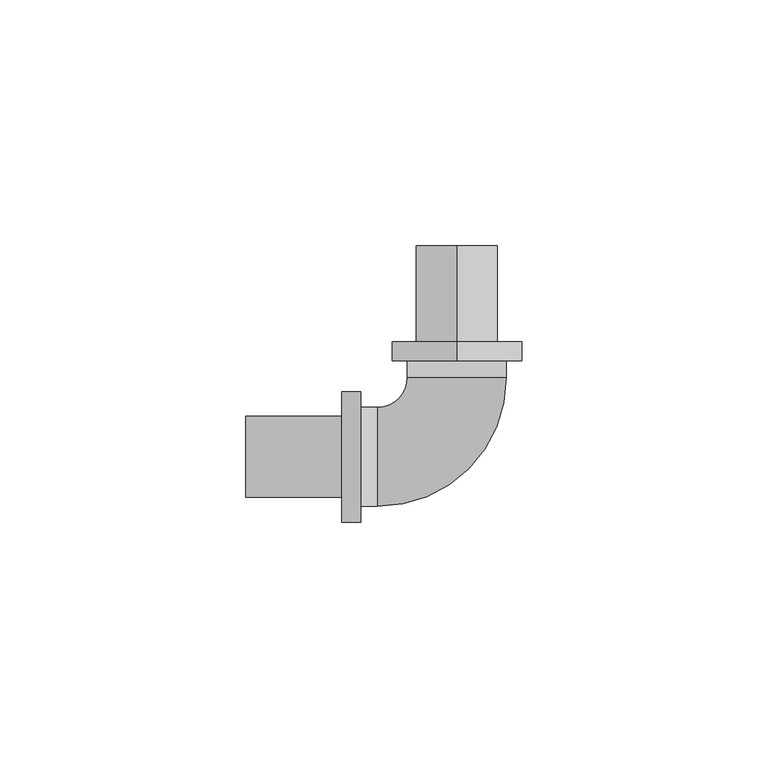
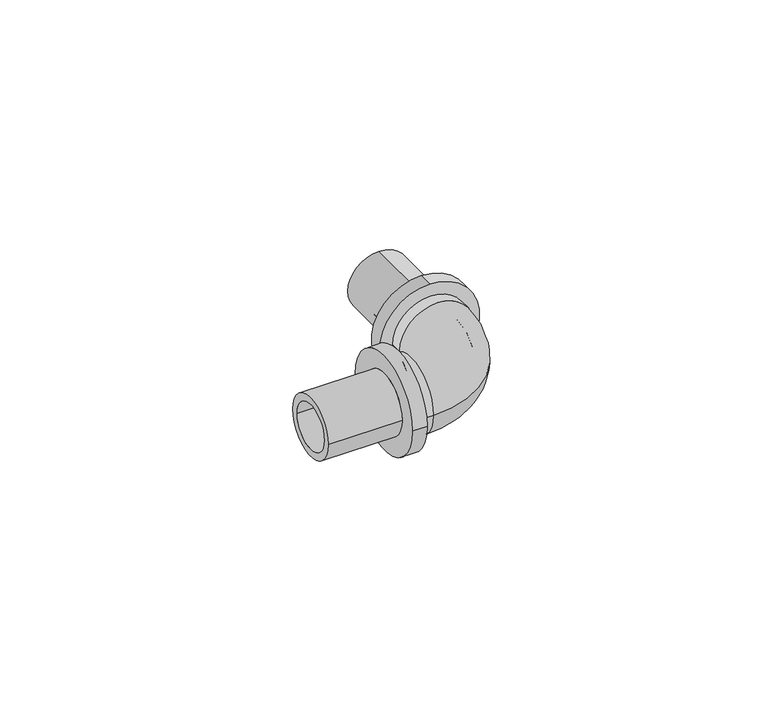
"""IFC4 building model written with IfcOpenShell, lengths in millimetres: pipe fitting geometry, RAUTITAN_Corner_RX+ : RTI RX+ C DN."""

import ifcopenshell
import ifcopenshell.guid

model = None  # the IFC model being written
_history = None  # IfcOwnerHistory: only IFC2X3 demands one
_inside = {}  # id of a spatial element -> (the spatial element, [elements in it])
_under = {}  # id of a project, library or spatial element -> (it, [spatial elements below it])
_declared = {}  # id of a project -> (the project, [libraries it declares])
_typed = {}  # id of a type object -> (the type object, [elements of that type])
_made_of = {}  # id of a material, layer set ... -> (it, [elements and type objects made of it])


def new_model(schema):
    """Start an empty IFC model of exactly this schema.

    Asked for "IFC4X3", IfcOpenShell would pick the latest addendum, in which some entities
    have other attributes; the version numbers below select the first issue.
    IFC2X3 requires an IfcOwnerHistory on every rooted entity: one is made here for all.
    """
    global model, _history
    if schema == "IFC4X3":
        model = ifcopenshell.file(schema_version=(4, 3, 0, 0))
    else:
        model = ifcopenshell.file(schema=schema)
    _inside.clear()
    _under.clear()
    _declared.clear()
    _typed.clear()
    _made_of.clear()
    _history = None
    if model.schema == "IFC2X3":
        org = make("IfcOrganization", Name="unknown")
        user = make(
            "IfcPersonAndOrganization",
            ThePerson=make("IfcPerson", FamilyName="unknown"),
            TheOrganization=org,
        )
        app = make(
            "IfcApplication",
            ApplicationDeveloper=org,
            Version="unknown",
            ApplicationFullName="unknown",
            ApplicationIdentifier="unknown",
        )
        _history = make(
            "IfcOwnerHistory",
            OwningUser=user,
            OwningApplication=app,
            ChangeAction="ADDED",
            CreationDate=0,
        )
    return model


def make(cls, **values):
    """One entity of the class cls with the attributes given. An attribute that is None is left unset."""
    return model.create_entity(
        cls, **{name: value for name, value in values.items() if value is not None}
    )


def rooted(cls, **values):
    """An entity with a GlobalId (a new one), such as an element, a storey or a relation."""
    return make(cls, GlobalId=ifcopenshell.guid.new(), OwnerHistory=_history, **values)


def si_unit(unit_type, name, prefix=None):
    """IfcSIUnit, for example si_unit("LENGTHUNIT", "METRE", prefix="MILLI")."""
    return make("IfcSIUnit", UnitType=unit_type, Prefix=prefix, Name=name)


def assignment(units):
    """IfcUnitAssignment: the units of a project."""
    return None if units is None else make("IfcUnitAssignment", Units=units)


def point(xyz):
    """IfcCartesianPoint."""
    return None if xyz is None else make("IfcCartesianPoint", Coordinates=xyz)


def direction(xyz):
    """IfcDirection."""
    return None if xyz is None else make("IfcDirection", DirectionRatios=xyz)


def frame(location, z_axis=None, x_axis=None):
    """IfcAxis2Placement3D, a coordinate frame: its origin and axes. An axis left out is left unset."""
    return make(
        "IfcAxis2Placement3D",
        Location=point(location),
        Axis=direction(z_axis),
        RefDirection=direction(x_axis),
    )


def origin():
    """The frame at (0, 0, 0) with its axes left unset."""
    return frame((0.0, 0.0, 0.0))


def place(relative_to, where):
    """IfcLocalPlacement: puts the frame where relative to a parent placement (None: the world)."""
    return make(
        "IfcLocalPlacement", PlacementRelTo=relative_to, RelativePlacement=where
    )


def context(
    kind, dimensions, precision=None, world=None, true_north=None, identifier=None
):
    """IfcGeometricRepresentationContext, for example the 3D "Model" context."""
    return make(
        "IfcGeometricRepresentationContext",
        ContextIdentifier=identifier,
        ContextType=kind,
        CoordinateSpaceDimension=dimensions,
        Precision=precision,
        WorldCoordinateSystem=world,
        TrueNorth=true_north,
    )


def project(units=None, contexts=None):
    """IfcProject with its units and contexts."""
    return rooted(
        "IfcProject",
        Name="project",
        RepresentationContexts=contexts,
        UnitsInContext=assignment(units),
    )


def spatial(cls, under=None, at=None, **own):
    """A site, building, storey or space (cls), placed at a placement, below another one or the project."""
    s = rooted(cls, ObjectPlacement=at, **own)
    if under is not None:
        _under.setdefault(under.id(), (under, []))[1].append(s)
    return s


def polyline(points):
    """IfcPolyline through the points."""
    return make("IfcPolyline", Points=[point(p) for p in points])


def circle_curve(where, radius):
    """IfcCircle in the frame where."""
    return make("IfcCircle", Position=where, Radius=radius)


def ellipse_curve(where, semi_axis1, semi_axis2):
    """IfcEllipse in the frame where."""
    return make(
        "IfcEllipse", Position=where, SemiAxis1=semi_axis1, SemiAxis2=semi_axis2
    )


def trimmed(basis, trim1, trim2, sense, master):
    """IfcTrimmedCurve: the piece of a basis curve between two trims."""
    return make(
        "IfcTrimmedCurve",
        BasisCurve=basis,
        Trim1=trim1,
        Trim2=trim2,
        SenseAgreement=sense,
        MasterRepresentation=master,
    )


def shape(context_of_items, identifier, shape_type, items):
    """IfcShapeRepresentation: the items that make up one representation, for example the "Body"."""
    return make(
        "IfcShapeRepresentation",
        ContextOfItems=context_of_items,
        RepresentationIdentifier=identifier,
        RepresentationType=shape_type,
        Items=items,
    )


def source(mapping_origin, context_of_items, identifier, shape_type, items):
    """IfcRepresentationMap: a shape defined once, which mapped items show again and again."""
    return make(
        "IfcRepresentationMap",
        MappingOrigin=mapping_origin,
        MappedRepresentation=shape(context_of_items, identifier, shape_type, items),
    )


def transform(
    local_origin,
    x_axis=None,
    y_axis=None,
    z_axis=None,
    scale=None,
    scale2=None,
    scale3=None,
    uniform=True,
):
    """IfcCartesianTransformationOperator3D, or its non-uniform kind. x_axis, y_axis, z_axis: its Axis1, 2, 3."""
    if uniform:
        return make(
            "IfcCartesianTransformationOperator3D",
            Axis1=direction(x_axis),
            Axis2=direction(y_axis),
            LocalOrigin=point(local_origin),
            Scale=scale,
            Axis3=direction(z_axis),
        )
    return make(
        "IfcCartesianTransformationOperator3DnonUniform",
        Axis1=direction(x_axis),
        Axis2=direction(y_axis),
        LocalOrigin=point(local_origin),
        Scale=scale,
        Axis3=direction(z_axis),
        Scale2=scale2,
        Scale3=scale3,
    )


def mapped(mapping_source, mapping_target):
    """IfcMappedItem: shows the shape of a source again, moved by a transform."""
    return make(
        "IfcMappedItem", MappingSource=mapping_source, MappingTarget=mapping_target
    )


def made_of(thing, what):
    """Note that an element or type object is made of a material, layer set ...; save() writes the relation."""
    if what is not None:
        _made_of.setdefault(what.id(), (what, []))[1].append(thing)
    return thing


def element(
    cls,
    number,
    at=None,
    inside=None,
    cuts=None,
    type_object=None,
    material=None,
    context=None,
    identifier="Body",
    shape_type=None,
    held_by="IfcProductDefinitionShape",
    body=None,
    shapes=None,
    **own,
):
    """One element of the class cls, such as IfcWall. Its Tag is "e" and its number.

    at: its placement. inside: the storey or other place that contains it. cuts: it is an
    opening in that element (IfcRelVoidsElement). A single representation is given by context,
    identifier, shape_type and body (its items); several are given by shapes. held_by: the class
    of the entity that holds the representations. save() writes the other relations.
    """
    e = rooted(cls, Tag="e%d" % number, ObjectPlacement=at, **own)
    if body is not None:
        shapes = [shape(context, identifier, shape_type, body)]
    if shapes is not None:
        e.Representation = make(held_by, Representations=shapes)
    if inside is not None:
        _inside.setdefault(inside.id(), (inside, []))[1].append(e)
    if cuts is not None:
        rooted(
            "IfcRelVoidsElement", RelatingBuildingElement=cuts, RelatedOpeningElement=e
        )
    if type_object is not None:
        _typed.setdefault(type_object.id(), (type_object, []))[1].append(e)
    return made_of(e, material)


def aggregate(whole, parts):
    """IfcRelAggregates: a whole, such as a stair, and the parts it consists of."""
    return rooted("IfcRelAggregates", RelatingObject=whole, RelatedObjects=parts)


def save(model, path):
    """Write the relations noted so far, then the file.

    IfcRelAggregates (storeys below a building ...), IfcRelContainedInSpatialStructure (elements
    in a storey), IfcRelDefinesByType, IfcRelAssociatesMaterial and IfcRelDeclares: one each for
    every whole, place, type object, material and project.
    """
    for whole, parts in _under.values():
        aggregate(whole, parts)
    for where, things in _inside.values():
        rooted(
            "IfcRelContainedInSpatialStructure",
            RelatedElements=things,
            RelatingStructure=where,
        )
    for kind, things in _typed.values():
        rooted("IfcRelDefinesByType", RelatedObjects=things, RelatingType=kind)
    for what, things in _made_of.values():
        rooted("IfcRelAssociatesMaterial", RelatedObjects=things, RelatingMaterial=what)
    for by, libraries in _declared.values():
        rooted("IfcRelDeclares", RelatingContext=by, RelatedDefinitions=libraries)
    model.write(path)


def plane_surface(at):
    """IfcPlane: the flat surface through the origin of the frame at, square to its z axis."""
    return make("IfcPlane", Position=at)


def cylinder_surface(at, radius):
    """IfcCylindricalSurface: all points at the distance radius from the z axis of the frame at."""
    return make("IfcCylindricalSurface", Position=at, Radius=radius)


def revolved_surface(curve, axis_point, axis_direction):
    """IfcSurfaceOfRevolution: the curve turned about the line through axis_point along axis_direction."""
    return make(
        "IfcSurfaceOfRevolution",
        SweptCurve=make("IfcArbitraryOpenProfileDef", ProfileType="CURVE", Curve=curve),
        AxisPosition=make("IfcAxis1Placement", Location=point(axis_point), Axis=direction(axis_direction)),
    )


def advanced_brep(points, edges, surfaces, faces):
    """IfcAdvancedBrep: a solid bounded by faces that lie on surfaces and meet in shared edges.

    An edge is (start, end): straight between two places in points (the first is 0);
    or (start, end, curve); or (start, end, curve, False) where it runs against its curve.
    A face is (place in surfaces, loops), or (place, loops, False) where it looks against
    its surface's normal. A loop lists edges by number (the first is 1), with a minus sign
    where the edge is run from its end to its start. The first loop is the outer one.
    """
    corners = [point(p) for p in points]
    vertices = [make("IfcVertexPoint", VertexGeometry=c) for c in corners]
    made = []
    for start, end, *more in edges:
        made.append(
            make(
                "IfcEdgeCurve",
                EdgeStart=vertices[start],
                EdgeEnd=vertices[end],
                EdgeGeometry=more[0] if more else make("IfcPolyline", Points=[corners[start], corners[end]]),
                SameSense=more[1] if len(more) > 1 else True,
            )
        )
    hull = []
    for where, loops, *sense in faces:
        bounds = []
        for j, loop in enumerate(loops):
            ring = [make("IfcOrientedEdge", EdgeElement=made[abs(k) - 1], Orientation=k > 0) for k in loop]
            bounds.append(
                make(
                    "IfcFaceOuterBound" if j == 0 else "IfcFaceBound",
                    Bound=make("IfcEdgeLoop", EdgeList=ring),
                    Orientation=True,
                )
            )
        hull.append(make("IfcAdvancedFace", Bounds=bounds, FaceSurface=surfaces[where], SameSense=sense[0] if sense else True))
    return make("IfcAdvancedBrep", Outer=make("IfcClosedShell", CfsFaces=hull))


def pipe_fitting_19b78b0a(model_context):
    return source(origin(), model_context, "Body", "AdvancedBrep", [
        advanced_brep(
        [(0.0, 23.4, 13.25), (0.0, 23.4, -13.25), (0.0, 19.6, -13.25), (0.0, 19.6, 13.25), (0.0, 42.9, 8.25), (0.0, 42.9, -8.25), (0.0, 23.4, -8.25), (0.0, 23.4, 8.25), (0.0, 19.6, 6.25), (0.0, 19.6, -6.25), (0.0, 42.9, -6.25), (0.0, 42.9, 6.25)],
        [
            (0, 1, circle_curve(frame((0.0, 23.4, 0.0), z_axis=(0.0, -1.0, 0.0), x_axis=(0.0, 0.0, -1.0)), 13.25)),
            (1, 2),
            (2, 3, circle_curve(frame((0.0, 19.6, 0.0), z_axis=(0.0, 1.0, 0.0), x_axis=(0.0, 0.0, -1.0)), 13.25)),
            (3, 0),
            (4, 5, circle_curve(frame((0.0, 42.9, 0.0), z_axis=(0.0, -1.0, 0.0), x_axis=(0.0, 0.0, -1.0)), 8.25)),
            (5, 6),
            (6, 7, circle_curve(frame((0.0, 23.4, 0.0), z_axis=(0.0, 1.0, 0.0), x_axis=(0.0, 0.0, -1.0)), 8.25)),
            (7, 4),
            (8, 9, circle_curve(frame((0.0, 19.6, 0.0), z_axis=(0.0, -1.0, 0.0), x_axis=(0.0, 0.0, -1.0)), 6.25)),
            (9, 10),
            (10, 11, circle_curve(frame((0.0, 42.9, 0.0), z_axis=(0.0, 1.0, 0.0), x_axis=(0.0, 0.0, -1.0)), 6.25)),
            (11, 8),
            (1, 0, circle_curve(frame((0.0, 23.4, 0.0), z_axis=(0.0, -1.0, 0.0), x_axis=(0.0, 0.0, 1.0)), 13.25)),
            (3, 2, circle_curve(frame((0.0, 19.6, 0.0), z_axis=(0.0, 1.0, 0.0), x_axis=(0.0, 0.0, 1.0)), 13.25)),
            (6, 7, circle_curve(frame((0.0, 23.4, 0.0), z_axis=(0.0, -1.0, 0.0), x_axis=(0.0, 0.0, 1.0)), 8.25)),
            (5, 4, circle_curve(frame((0.0, 42.9, 0.0), z_axis=(0.0, -1.0, 0.0), x_axis=(0.0, 0.0, 1.0)), 8.25)),
            (10, 11, circle_curve(frame((0.0, 42.9, 0.0), z_axis=(0.0, -1.0, 0.0), x_axis=(0.0, 0.0, 1.0)), 6.25)),
            (9, 8, circle_curve(frame((0.0, 19.6, 0.0), z_axis=(0.0, -1.0, 0.0), x_axis=(0.0, 0.0, 1.0)), 6.25)),
        ],
        [
            cylinder_surface(frame((0.0, 19.6, 0.0), z_axis=(0.0, 1.0, 0.0), x_axis=(0.0, 0.0, -1.0)), 13.25),
            cylinder_surface(frame((0.0, 19.6, 0.0), z_axis=(0.0, 1.0, 0.0), x_axis=(0.0, 0.0, -1.0)), 8.25),
            revolved_surface(polyline([(0.0, 42.9, -6.25), (0.0, 19.6, -6.25)]), (0.0, 19.6, 0.0), (0.0, 1.0, 0.0)),
            cylinder_surface(frame((0.0, 19.6, 0.0), z_axis=(0.0, 1.0, 0.0), x_axis=(0.0, 0.0, 1.0)), 13.25),
            plane_surface(frame((0.0, 23.4, 0.0), z_axis=(0.0, 1.0, 0.0), x_axis=(0.0, 0.0, 1.0))),
            cylinder_surface(frame((0.0, 19.6, 0.0), z_axis=(0.0, 1.0, 0.0), x_axis=(0.0, 0.0, 1.0)), 8.25),
            plane_surface(frame((0.0, 42.9, 0.0), z_axis=(0.0, 1.0, 0.0), x_axis=(0.0, 0.0, 1.0))),
            revolved_surface(polyline([(0.0, 42.9, 6.25), (0.0, 19.6, 6.25)]), (0.0, 19.6, 0.0), (0.0, 1.0, 0.0)),
            plane_surface(frame((0.0, 19.6, 0.0), z_axis=(0.0, -1.0, 0.0), x_axis=(0.0, 0.0, 1.0))),
        ],
        [
            (0, [[1, 2, 3, 4]]),
            (1, [[5, 6, 7, 8]]),
            (2, [[9, 10, 11, 12]]),
            (3, [[13, -4, 14, -2]]),
            (4, [[-13, -1], [15, -7]]),
            (5, [[16, -8, -15, -6]]),
            (6, [[-16, -5], [17, -11]]),
            (7, [[18, -12, -17, -10]]),
            (8, [[-14, -3], [-18, -9]]),
        ],
    ),
        advanced_brep(
        [(-23.4, -13.25, 0.0), (-23.4, 13.25, 0.0), (-19.6, 13.25, 0.0), (-19.6, -13.25, 0.0), (-42.9, -8.25, 0.0), (-42.9, 8.25, 0.0), (-23.4, 8.25, 0.0), (-23.4, -8.25, 0.0), (-19.6, -6.25, 0.0), (-19.6, 6.25, 0.0), (-42.9, 6.25, 0.0), (-42.9, -6.25, 0.0)],
        [
            (0, 1, circle_curve(frame((-23.4, 0.0, 0.0), z_axis=(1.0, 0.0, 0.0), x_axis=(0.0, 1.0, 0.0)), 13.25)),
            (1, 2),
            (2, 3, circle_curve(frame((-19.6, 0.0, 0.0), z_axis=(-1.0, 0.0, 0.0), x_axis=(0.0, 1.0, 0.0)), 13.25)),
            (3, 0),
            (4, 5, circle_curve(frame((-42.9, 0.0, 0.0), z_axis=(1.0, 0.0, 0.0), x_axis=(0.0, 1.0, 0.0)), 8.25)),
            (5, 6),
            (6, 7, circle_curve(frame((-23.4, 0.0, 0.0), z_axis=(-1.0, 0.0, 0.0), x_axis=(0.0, 1.0, 0.0)), 8.25)),
            (7, 4),
            (8, 9, circle_curve(frame((-19.6, 0.0, 0.0), z_axis=(1.0, 0.0, 0.0), x_axis=(0.0, 1.0, 0.0)), 6.25)),
            (9, 10),
            (10, 11, circle_curve(frame((-42.9, 0.0, 0.0), z_axis=(-1.0, 0.0, 0.0), x_axis=(0.0, 1.0, 0.0)), 6.25)),
            (11, 8),
            (1, 0, circle_curve(frame((-23.4, 0.0, 0.0), z_axis=(1.0, 0.0, 0.0), x_axis=(0.0, -1.0, 0.0)), 13.25)),
            (3, 2, circle_curve(frame((-19.6, 0.0, 0.0), z_axis=(-1.0, 0.0, 0.0), x_axis=(0.0, -1.0, 0.0)), 13.25)),
            (6, 7, circle_curve(frame((-23.4, 0.0, 0.0), z_axis=(1.0, 0.0, 0.0), x_axis=(0.0, -1.0, 0.0)), 8.25)),
            (5, 4, circle_curve(frame((-42.9, 0.0, 0.0), z_axis=(1.0, 0.0, 0.0), x_axis=(0.0, -1.0, 0.0)), 8.25)),
            (10, 11, circle_curve(frame((-42.9, 0.0, 0.0), z_axis=(1.0, 0.0, 0.0), x_axis=(0.0, -1.0, 0.0)), 6.25)),
            (9, 8, circle_curve(frame((-19.6, 0.0, 0.0), z_axis=(1.0, 0.0, 0.0), x_axis=(0.0, -1.0, 0.0)), 6.25)),
        ],
        [
            cylinder_surface(frame((-19.6, 0.0, 0.0), z_axis=(-1.0, 0.0, 0.0), x_axis=(0.0, 1.0, 0.0)), 13.25),
            cylinder_surface(frame((-19.6, 0.0, 0.0), z_axis=(-1.0, 0.0, 0.0), x_axis=(0.0, 1.0, 0.0)), 8.25),
            revolved_surface(polyline([(-42.9, 6.25, 0.0), (-19.6, 6.25, 0.0)]), (-19.6, 0.0, 0.0), (-1.0, 0.0, 0.0)),
            cylinder_surface(frame((-19.6, 0.0, 0.0), z_axis=(-1.0, 0.0, 0.0), x_axis=(0.0, -1.0, 0.0)), 13.25),
            plane_surface(frame((-23.4, 0.0, 0.0), z_axis=(-1.0, 0.0, 0.0), x_axis=(0.0, -1.0, 0.0))),
            cylinder_surface(frame((-19.6, 0.0, 0.0), z_axis=(-1.0, 0.0, 0.0), x_axis=(0.0, -1.0, 0.0)), 8.25),
            plane_surface(frame((-42.9, 0.0, 0.0), z_axis=(-1.0, 0.0, 0.0), x_axis=(0.0, -1.0, 0.0))),
            revolved_surface(polyline([(-42.9, -6.25, 0.0), (-19.6, -6.25, 0.0)]), (-19.6, 0.0, 0.0), (-1.0, 0.0, 0.0)),
            plane_surface(frame((-19.6, 0.0, 0.0), z_axis=(1.0, 0.0, 0.0), x_axis=(0.0, -1.0, 0.0))),
        ],
        [
            (0, [[1, 2, 3, 4]]),
            (1, [[5, 6, 7, 8]]),
            (2, [[9, 10, 11, 12]]),
            (3, [[13, -4, 14, -2]]),
            (4, [[-13, -1], [15, -7]]),
            (5, [[16, -8, -15, -6]]),
            (6, [[-16, -5], [17, -11]]),
            (7, [[18, -12, -17, -10]]),
            (8, [[-14, -3], [-18, -9]]),
        ],
    ),
        advanced_brep(
        [(-19.6, 10.05, 0.0), (-19.6, -10.05, 0.0), (-19.6, 6.25, 0.0), (-19.6, -6.25, 0.0), (-16.15, -6.25, 0.0), (-16.15, 6.25, 0.0), (-16.15, -10.05, 0.0), (-16.15, 0.0, 10.05), (-16.15, 10.05, 0.0), (-16.15, 0.0, -10.05), (10.05, 19.6, 0.0), (-10.05, 19.6, 0.0), (6.25, 19.6, 0.0), (-6.25, 19.6, 0.0), (-6.25, 16.15, 0.0), (6.25, 16.15, 0.0), (-10.05, 16.15, 0.0), (0.0, 16.15, 10.05), (10.05, 16.15, 0.0), (0.0, 16.15, -10.05)],
        [
            (0, 1, circle_curve(frame((-19.6, 0.0, 0.0), z_axis=(-1.0, 0.0, 0.0), x_axis=(0.0, -1.0, 0.0)), 10.05)),
            (1, 0, circle_curve(frame((-19.6, 0.0, 0.0), z_axis=(-1.0, 0.0, 0.0), x_axis=(0.0, -1.0, 0.0)), 10.05)),
            (2, 3, circle_curve(frame((-19.6, 0.0, 0.0), z_axis=(1.0, 0.0, 0.0), x_axis=(0.0, -1.0, 0.0)), 6.25)),
            (3, 2, circle_curve(frame((-19.6, 0.0, 0.0), z_axis=(1.0, 0.0, 0.0), x_axis=(0.0, -1.0, 0.0)), 6.25)),
            (3, 4),
            (4, 5, circle_curve(frame((-16.15, 0.0, 0.0), z_axis=(1.0, 0.0, 0.0), x_axis=(0.0, -1.0, 0.0)), 6.25)),
            (5, 2),
            (5, 4, circle_curve(frame((-16.15, 0.0, 0.0), z_axis=(1.0, 0.0, 0.0), x_axis=(0.0, -1.0, 0.0)), 6.25)),
            (1, 6),
            (6, 7, circle_curve(frame((-16.15, 0.0, 0.0), z_axis=(-1.0, 0.0, 0.0), x_axis=(0.0, -1.0, 0.0)), 10.05)),
            (7, 8, circle_curve(frame((-16.15, 0.0, 0.0), z_axis=(-1.0, 0.0, 0.0), x_axis=(0.0, -1.0, 0.0)), 10.05)),
            (8, 0),
            (8, 9, circle_curve(frame((-16.15, 0.0, 0.0), z_axis=(-1.0, 0.0, 0.0), x_axis=(0.0, -1.0, 0.0)), 10.05)),
            (9, 6, circle_curve(frame((-16.15, 0.0, 0.0), z_axis=(-1.0, 0.0, 0.0), x_axis=(0.0, -1.0, 0.0)), 10.05)),
            (10, 11, circle_curve(frame((0.0, 19.6, 0.0), z_axis=(0.0, 1.0, 0.0), x_axis=(-1.0, 0.0, 0.0)), 10.05)),
            (11, 10, circle_curve(frame((0.0, 19.6, 0.0), z_axis=(0.0, 1.0, 0.0), x_axis=(-1.0, 0.0, 0.0)), 10.05)),
            (12, 13, circle_curve(frame((0.0, 19.6, 0.0), z_axis=(0.0, -1.0, 0.0), x_axis=(-1.0, 0.0, 0.0)), 6.25)),
            (13, 12, circle_curve(frame((0.0, 19.6, 0.0), z_axis=(0.0, -1.0, 0.0), x_axis=(-1.0, 0.0, 0.0)), 6.25)),
            (13, 14),
            (14, 15, circle_curve(frame((0.0, 16.15, 0.0), z_axis=(0.0, -1.0, 0.0), x_axis=(-1.0, 0.0, 0.0)), 6.25)),
            (15, 12),
            (15, 14, circle_curve(frame((0.0, 16.15, 0.0), z_axis=(0.0, -1.0, 0.0), x_axis=(-1.0, 0.0, 0.0)), 6.25)),
            (11, 16),
            (16, 17, circle_curve(frame((0.0, 16.15, 0.0), z_axis=(0.0, 1.0, 0.0), x_axis=(-1.0, 0.0, 0.0)), 10.05)),
            (17, 18, circle_curve(frame((0.0, 16.15, 0.0), z_axis=(0.0, 1.0, 0.0), x_axis=(-1.0, 0.0, 0.0)), 10.05)),
            (18, 10),
            (18, 19, circle_curve(frame((0.0, 16.15, 0.0), z_axis=(0.0, 1.0, 0.0), x_axis=(-1.0, 0.0, 0.0)), 10.05)),
            (19, 16, circle_curve(frame((0.0, 16.15, 0.0), z_axis=(0.0, 1.0, 0.0), x_axis=(-1.0, 0.0, 0.0)), 10.05)),
            (14, 5, circle_curve(frame((-16.15, 16.15, 0.0), z_axis=(0.0, 0.0, -1.0), x_axis=(0.0, -1.0, 0.0)), 9.9)),
            (4, 15, circle_curve(frame((-16.15, 16.15, 0.0), z_axis=(0.0, 0.0, 1.0), x_axis=(0.0, -1.0, 0.0)), 22.4)),
            (16, 8, circle_curve(frame((-16.15, 16.15, 0.0), z_axis=(0.0, 0.0, -1.0), x_axis=(0.0, -1.0, 0.0)), 6.1)),
            (6, 18, circle_curve(frame((-16.15, 16.15, 0.0), z_axis=(0.0, 0.0, 1.0), x_axis=(0.0, -1.0, 0.0)), 26.2)),
        ],
        [
            plane_surface(frame((-19.6, 0.0, 0.0), z_axis=(-1.0, 0.0, 0.0), x_axis=(0.0, 0.0, 1.0))),
            revolved_surface(polyline([(-19.6, -6.25, 0.0), (-16.15, -6.25, 0.0)]), (-16.15, 0.0, 0.0), (-1.0, 0.0, 0.0)),
            cylinder_surface(frame((-16.15, 0.0, 0.0), z_axis=(1.0, 0.0, 0.0), x_axis=(0.0, -1.0, 0.0)), 10.05),
            plane_surface(frame((0.0, 19.6, 0.0), z_axis=(0.0, 1.0, 0.0), x_axis=(0.0, 0.0, 1.0))),
            revolved_surface(polyline([(-6.25, 19.6, 0.0), (-6.25, 16.15, 0.0)]), (0.0, 16.15, 0.0), (0.0, 1.0, 0.0)),
            cylinder_surface(frame((0.0, 16.15, 0.0), z_axis=(0.0, -1.0, 0.0), x_axis=(-1.0, 0.0, 0.0)), 10.05),
            revolved_surface(trimmed(ellipse_curve(frame((-16.15, 0.0, 0.0), z_axis=(1.0, 0.0, 0.0), x_axis=(0.0, 1.0, 0.0)), 6.25, 6.25), [point((-16.15, -6.25, 0.0))], [point((-16.15, 6.25, 0.0))], True, "CARTESIAN"), (-16.15, 16.15, 0.0), (0.0, 0.0, 1.0)),
            revolved_surface(trimmed(ellipse_curve(frame((-16.15, 0.0, 0.0), z_axis=(1.0, 0.0, 0.0), x_axis=(0.0, 1.0, 0.0)), 6.25, 6.25), [point((-16.15, 6.25, 0.0))], [point((-16.15, -6.25, 0.0))], True, "CARTESIAN"), (-16.15, 16.15, 0.0), (0.0, 0.0, 1.0)),
            revolved_surface(trimmed(ellipse_curve(frame((-16.15, 0.0, 0.0), z_axis=(-1.0, 0.0, 0.0), x_axis=(0.0, 1.0, 0.0)), 10.05, 10.05), [point((-16.15, -10.05, 0.0))], [point((-16.15, 10.05, 0.0))], True, "CARTESIAN"), (-16.15, 16.15, 0.0), (0.0, 0.0, 1.0)),
            revolved_surface(trimmed(ellipse_curve(frame((-16.15, 0.0, 0.0), z_axis=(-1.0, 0.0, 0.0), x_axis=(0.0, 1.0, 0.0)), 10.05, 10.05), [point((-16.15, 10.05, 0.0))], [point((-16.15, -10.05, 0.0))], True, "CARTESIAN"), (-16.15, 16.15, 0.0), (0.0, 0.0, 1.0)),
        ],
        [
            (0, [[1, 2], [3, 4]]),
            (1, [[-4, 5, 6, 7]]),
            (1, [[-3, -7, 8, -5]]),
            (2, [[-2, 9, 10, 11, 12]]),
            (2, [[-1, -12, 13, 14, -9]]),
            (3, [[15, 16], [17, 18]]),
            (4, [[-18, 19, 20, 21]]),
            (4, [[-17, -21, 22, -19]]),
            (5, [[-16, 23, 24, 25, 26]]),
            (5, [[-15, -26, 27, 28, -23]]),
            (6, [[29, -6, 30, -20]]),
            (7, [[-29, -22, -30, -8]]),
            (8, [[31, -11, -10, 32, -25, -24]]),
            (9, [[-31, -28, -27, -32, -14, -13]]),
        ],
    ),
    ])


if __name__ == "__main__":
    model = new_model("IFC4")
    model_context = context("Model", 3, world=origin())
    ifc_project = project(units=[si_unit("LENGTHUNIT", "METRE", prefix="MILLI")], contexts=[model_context])
    site = spatial("IfcSite", under=ifc_project)
    building = spatial("IfcBuilding", under=site)
    placement = place(None, origin())
    pipe_fitting_shape = pipe_fitting_19b78b0a(model_context)
    element("IfcPipeFitting", 1, ObjectType="RAUTITAN_Corner_RX+ : RTI RX+ C DN", at=placement, inside=building, context=model_context, shape_type="MappedRepresentation", body=[
        mapped(pipe_fitting_shape, transform((0.0, 0.0, 0.0), x_axis=(1.0, 0.0, 0.0), y_axis=(0.0, 1.0, 0.0), z_axis=(0.0, 0.0, 1.0))),
    ])
    save(model, "model.ifc")
